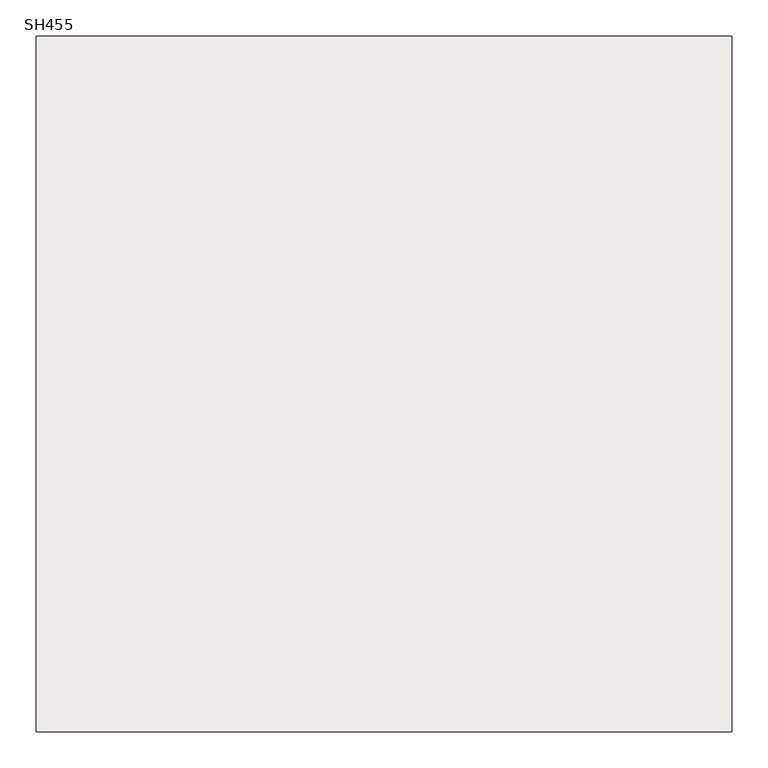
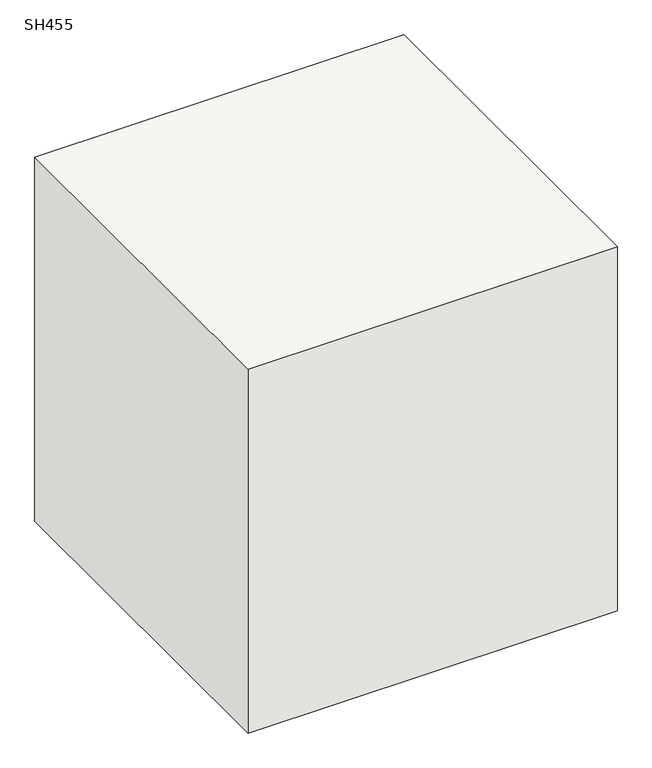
"""IFC4 building model written with IfcOpenShell, lengths in millimetres: slab geometry, 柱形_SH : SH455."""

from ifc_helpers import new_model, si_unit, frame, origin, place, context, project, spatial, polyline, outline, extrude, source, transform, mapped, element, save


def sh455_6269cbd8(model_context):
    return source(origin(), model_context, "Body", "SweptSolid", [
        extrude(outline(polyline([(480.0, 480.0), (480.0, -480.0), (-480.0, -480.0), (-480.0, 480.0), (480.0, 480.0)])), frame((0.0, 0.0, -1000.0), z_axis=(0.0, 0.0, 1.0), x_axis=(1.0, 0.0, 0.0)), (0.0, 0.0, 1.0), 1000.0),
    ])


if __name__ == "__main__":
    model = new_model("IFC4")
    model_context = context("Model", 3, world=origin())
    ifc_project = project(units=[si_unit("LENGTHUNIT", "METRE", prefix="MILLI")], contexts=[model_context])
    site = spatial("IfcSite", under=ifc_project)
    building = spatial("IfcBuilding", under=site)
    placement = place(None, origin())
    sh455_shape = sh455_6269cbd8(model_context)
    element("IfcSlab", 1, ObjectType="柱形_SH : SH455", at=placement, inside=building, context=model_context, shape_type="MappedRepresentation", body=[
        mapped(sh455_shape, transform((0.0, 0.0, 0.0), x_axis=(1.0, 0.0, 0.0), y_axis=(0.0, 1.0, 0.0), z_axis=(0.0, 0.0, 1.0))),
    ])
    save(model, "model.ifc")
